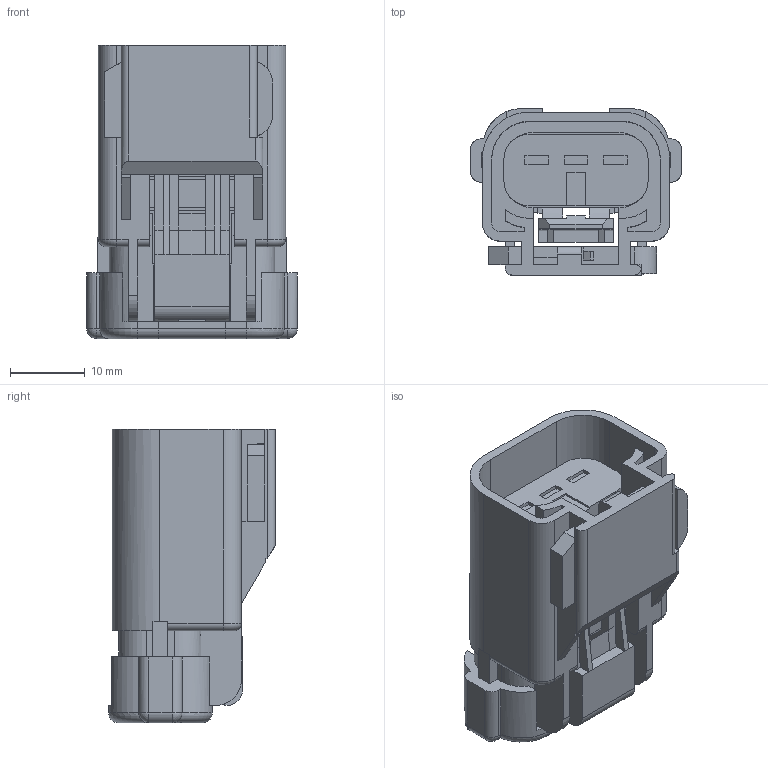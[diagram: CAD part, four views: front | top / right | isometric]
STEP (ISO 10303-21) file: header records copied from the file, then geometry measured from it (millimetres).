
FILE_DESCRIPTION(/* description */ (''),/* implementation_level */ '2;1');
FILE_NAME(/* name */ '10757671_ENV10_01.stp',/* time_stamp */ '2021-04-28T23:17:50+06:00',/* author */ (''),/* organization */ (''),/* preprocessor_version */ 'ST-DEVELOPER v16.7',/* originating_system */ 'SIEMENS PLM Software NX 12.0',/* authorisation */ '');
FILE_SCHEMA (('AP203_CONFIGURATION_CONTROLLED_3D_DESIGN_OF_MECHANICAL_PARTS_AND_ASSEMBLIES_MIM_LF { 1 0 10303 403 2 1 2}'));
Length unit declared in the file: millimetre
Products named in the file (1): qzs54334DDCBa97a
Bounding box: 28.2 x 22.36 x 39.3 mm (x, y, z)
Volume: 11201.7 mm3; surface area: 8969 mm2
Topology: 1 solids, 1 shells, 366 faces, 1024 edges, 656 vertices
Faces by surface type: plane 269, cylinder 83, torus 6, cone 4, sphere 4
Entity records: 11735 total; most frequent: CARTESIAN_POINT 2132, ORIENTED_EDGE 2040, DIRECTION 1905, EDGE_CURVE 1020, LINE 823, VECTOR 823, VERTEX_POINT 656, AXIS2_PLACEMENT_3D 541
